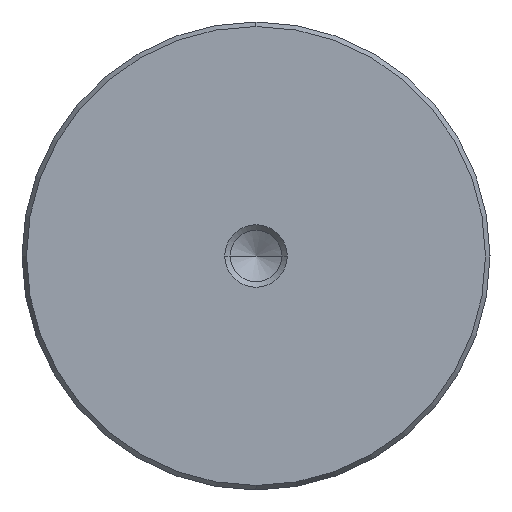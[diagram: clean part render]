
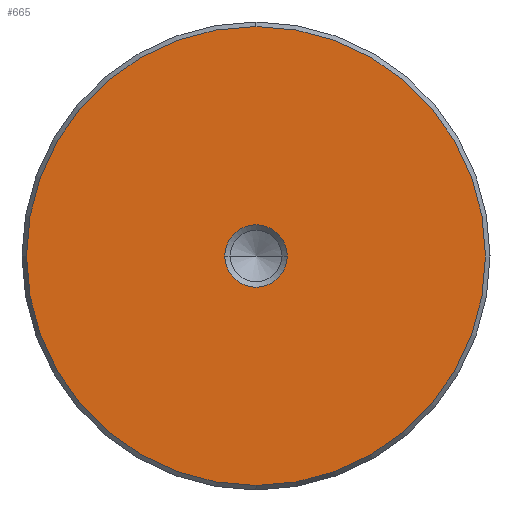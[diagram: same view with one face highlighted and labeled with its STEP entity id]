
A CAD part, left-side view. The second image highlights one B-rep face of the part: STEP entity #665.
In plain terms, the highlighted planar face has unit normal (-1, 0, 0).
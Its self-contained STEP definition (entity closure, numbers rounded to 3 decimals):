
#579=CARTESIAN_POINT('Vertex',(0.,0.,-29.423)) ;
#582=CARTESIAN_POINT('Axis2P3D Location',(0.,0.,0.)) ;
#586=CARTESIAN_POINT('Vertex',(0.,29.423,0.)) ;
#589=CARTESIAN_POINT('Axis2P3D Location',(0.,0.,0.)) ;
#593=CARTESIAN_POINT('Vertex',(0.,0.,29.423)) ;
#615=CARTESIAN_POINT('Axis2P3D Location',(0.,0.,0.)) ;
#619=CARTESIAN_POINT('Vertex',(0.,-29.423,0.)) ;
#622=CARTESIAN_POINT('Axis2P3D Location',(0.,0.,0.)) ;
#636=CARTESIAN_POINT('Axis2P3D Location',(0.,0.,0.)) ;
#647=CARTESIAN_POINT('Axis2P3D Location',(0.,0.,0.)) ;
#651=CARTESIAN_POINT('Vertex',(0.,4.,0.)) ;
#653=CARTESIAN_POINT('Vertex',(0.,-4.,0.)) ;
#656=CARTESIAN_POINT('Axis2P3D Location',(0.,0.,0.)) ;
#583=DIRECTION('Axis2P3D Direction',(1.,0.,-0.)) ;
#590=DIRECTION('Axis2P3D Direction',(1.,0.,-0.)) ;
#616=DIRECTION('Axis2P3D Direction',(1.,0.,-0.)) ;
#623=DIRECTION('Axis2P3D Direction',(1.,0.,-0.)) ;
#637=DIRECTION('Axis2P3D Direction',(1.,0.,-0.)) ;
#638=DIRECTION('Axis2P3D XDirection',(-0.,0.,-1.)) ;
#648=DIRECTION('Axis2P3D Direction',(1.,0.,-0.)) ;
#657=DIRECTION('Axis2P3D Direction',(1.,0.,-0.)) ;
#584=AXIS2_PLACEMENT_3D('Circle Axis2P3D',#582,#583,$) ;
#591=AXIS2_PLACEMENT_3D('Circle Axis2P3D',#589,#590,$) ;
#617=AXIS2_PLACEMENT_3D('Circle Axis2P3D',#615,#616,$) ;
#624=AXIS2_PLACEMENT_3D('Circle Axis2P3D',#622,#623,$) ;
#639=AXIS2_PLACEMENT_3D('Plane Axis2P3D',#636,#637,#638) ;
#649=AXIS2_PLACEMENT_3D('Circle Axis2P3D',#647,#648,$) ;
#658=AXIS2_PLACEMENT_3D('Circle Axis2P3D',#656,#657,$) ;
#642=ORIENTED_EDGE('',*,*,#588,.F.) ;
#643=ORIENTED_EDGE('',*,*,#626,.F.) ;
#644=ORIENTED_EDGE('',*,*,#621,.F.) ;
#645=ORIENTED_EDGE('',*,*,#595,.F.) ;
#662=ORIENTED_EDGE('',*,*,#655,.T.) ;
#663=ORIENTED_EDGE('',*,*,#660,.T.) ;
#664=FACE_BOUND('',#661,.T.) ;
#665=ADVANCED_FACE('720-60x315',(#646,#664),#640,.F.) ;
#585=CIRCLE('generated circle',#584,29.423) ;
#592=CIRCLE('generated circle',#591,29.423) ;
#618=CIRCLE('generated circle',#617,29.423) ;
#625=CIRCLE('generated circle',#624,29.423) ;
#650=CIRCLE('generated circle',#649,4.) ;
#659=CIRCLE('generated circle',#658,4.) ;
#588=EDGE_CURVE('',#580,#587,#585,.T.) ;
#595=EDGE_CURVE('',#587,#594,#592,.T.) ;
#621=EDGE_CURVE('',#594,#620,#618,.T.) ;
#626=EDGE_CURVE('',#620,#580,#625,.T.) ;
#655=EDGE_CURVE('',#652,#654,#650,.T.) ;
#660=EDGE_CURVE('',#654,#652,#659,.T.) ;
#641=EDGE_LOOP('',(#642,#643,#644,#645)) ;
#661=EDGE_LOOP('',(#662,#663)) ;
#646=FACE_OUTER_BOUND('',#641,.T.) ;
#640=PLANE('Plane',#639) ;
#580=VERTEX_POINT('',#579) ;
#587=VERTEX_POINT('',#586) ;
#594=VERTEX_POINT('',#593) ;
#620=VERTEX_POINT('',#619) ;
#652=VERTEX_POINT('',#651) ;
#654=VERTEX_POINT('',#653) ;
